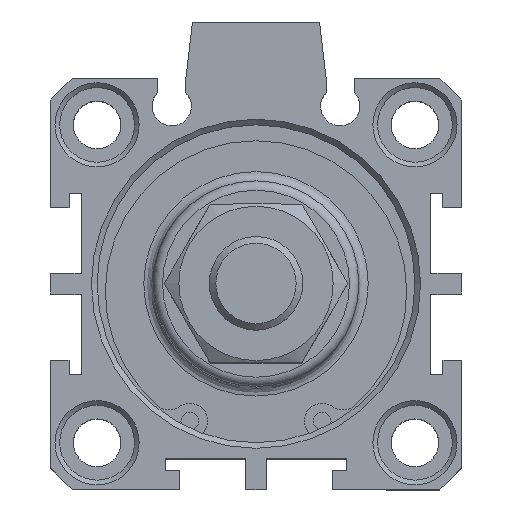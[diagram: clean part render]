
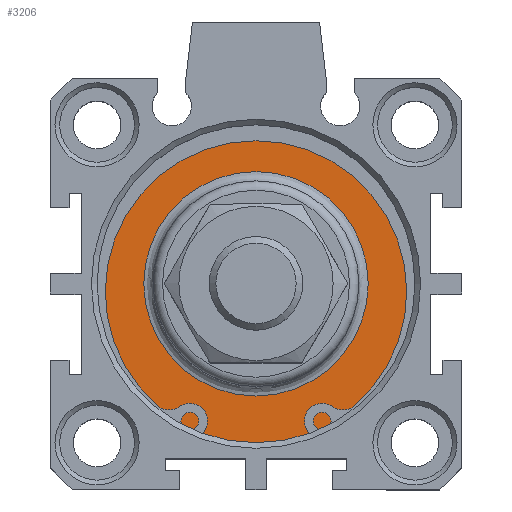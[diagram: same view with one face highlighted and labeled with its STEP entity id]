
A CAD part, top view. The second image highlights one B-rep face of the part: STEP entity #3206.
In plain terms, the highlighted planar face has unit normal (0, 0, 1).
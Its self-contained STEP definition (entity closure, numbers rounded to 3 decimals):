
#3155=CARTESIAN_POINT('',(2.273,12.598,30.8));
#3156=VERTEX_POINT('',#3155);
#3157=CARTESIAN_POINT('',(2.273,0.598,30.8));
#3158=DIRECTION('',(0.0,0.0,1.0));
#3159=DIRECTION('',(0.0,-1.0,0.0));
#3160=AXIS2_PLACEMENT_3D('',#3157,#3158,#3159);
#3161=CIRCLE('',#3160,12.0);
#3162=EDGE_CURVE('',#3156,#3156,#3161,.T.);
#3187=CARTESIAN_POINT('',(2.273,14.598,30.8));
#3188=DIRECTION('',(0.0,0.0,1.0));
#3189=DIRECTION('',(1.0,0.0,0.0));
#3190=AXIS2_PLACEMENT_3D('',#3187,#3188,#3189);
#3191=PLANE('',#3190);
#3192=CARTESIAN_POINT('',(2.273,17.598,30.8));
#3193=VERTEX_POINT('',#3192);
#3194=CARTESIAN_POINT('',(2.273,0.598,30.8));
#3195=DIRECTION('',(0.0,0.0,-1.0));
#3196=DIRECTION('',(0.0,1.0,0.0));
#3197=AXIS2_PLACEMENT_3D('',#3194,#3195,#3196);
#3198=CIRCLE('',#3197,17.);
#3199=EDGE_CURVE('',#3193,#3193,#3198,.T.);
#3200=ORIENTED_EDGE('',*,*,#3199,.F.);
#3201=EDGE_LOOP('',(#3200));
#3202=FACE_OUTER_BOUND('',#3201,.T.);
#3203=ORIENTED_EDGE('',*,*,#3162,.F.);
#3204=EDGE_LOOP('',(#3203));
#3205=FACE_BOUND('',#3204,.T.);
#3206=ADVANCED_FACE('',(#3202,#3205),#3191,.T.);
